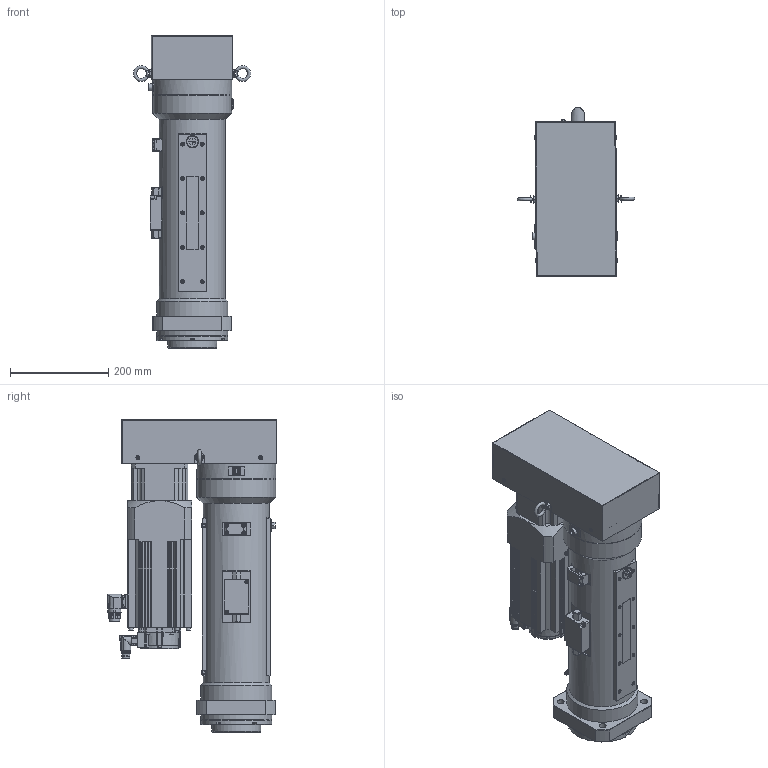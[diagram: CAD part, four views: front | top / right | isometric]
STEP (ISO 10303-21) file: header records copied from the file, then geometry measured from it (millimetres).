
FILE_DESCRIPTION(/* description */ (''),/* implementation_level */ '2;1');
FILE_NAME(/* name */ 'Z:\07.Product\01.Design\3D\1.P-All\OAICS-P\0000.Assembly\OACIS-P070,P080-250-150-A6V400.stp',/* time_stamp */ '2023-09-21T08:50:11+09:00',/* author */ ('magic'),/* organization */ (''),/* preprocessor_version */ 'ST-DEVELOPER v17',/* originating_system */ 'Autodesk Inventor 2019',/* authorisation */ '');
FILE_SCHEMA (('AUTOMOTIVE_DESIGN { 1 0 10303 214 3 1 1 }'));
Products named in the file (1): OACIS-P070,P080-250-200-A6V400
Bounding box: 238.89 x 345.02 x 635 mm (x, y, z)
Volume: 12097185.2 mm3; surface area: 1384773.4 mm2
Topology: 2 solids, 7 shells, 2791 faces, 7572 edges, 5006 vertices
Faces by surface type: plane 1406, cylinder 812, cone 253, bspline 156, torus 104, sphere 60
Full cylindrical faces by diameter (mm): 1 x6, 1.25 x12, 2.232 x6, 2.8 x1, 3.242 x9, 4.134 x4, 5.5 x5, 5.8 x2, 6 x4, 6.5 x2, 6.647 x32, 6.75 x4, 7 x33, 7.2 x2, 7.24 x2, 7.8 x2, 8 x39, 8.5 x4, 9 x16, 9.188 x1, 10 x4, 10.3 x1, 11 x1, 12 x1, 13 x1, 13.4 x1, 13.835 x8, 14 x13, 15.54 x1, 16 x1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
Entity records: 103111 total; most frequent: CARTESIAN_POINT 29779, ORIENTED_EDGE 14911, DIRECTION 14710, EDGE_CURVE 7463, AXIS2_PLACEMENT_3D 5441, VERTEX_POINT 5006, LINE 3828, VECTOR 3828
